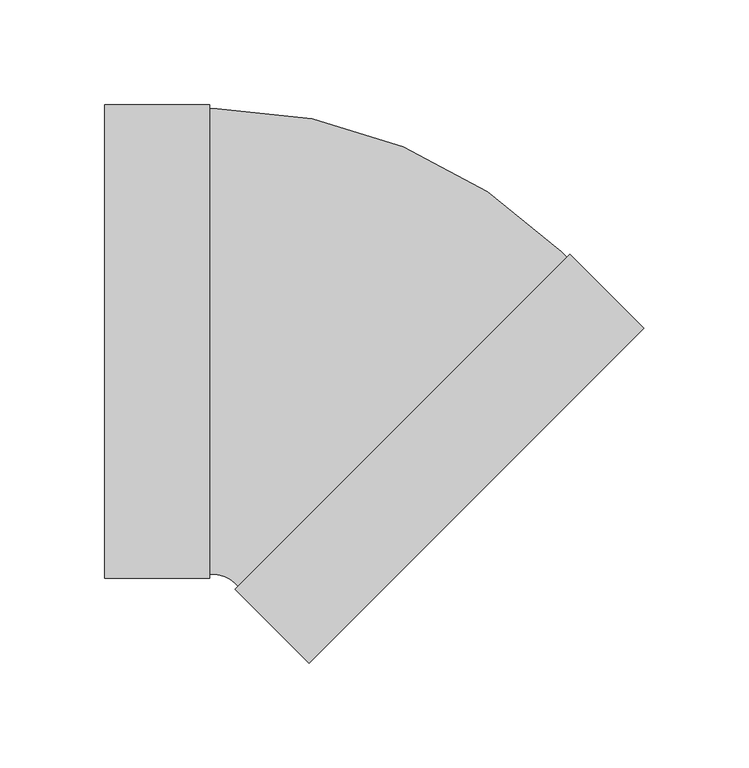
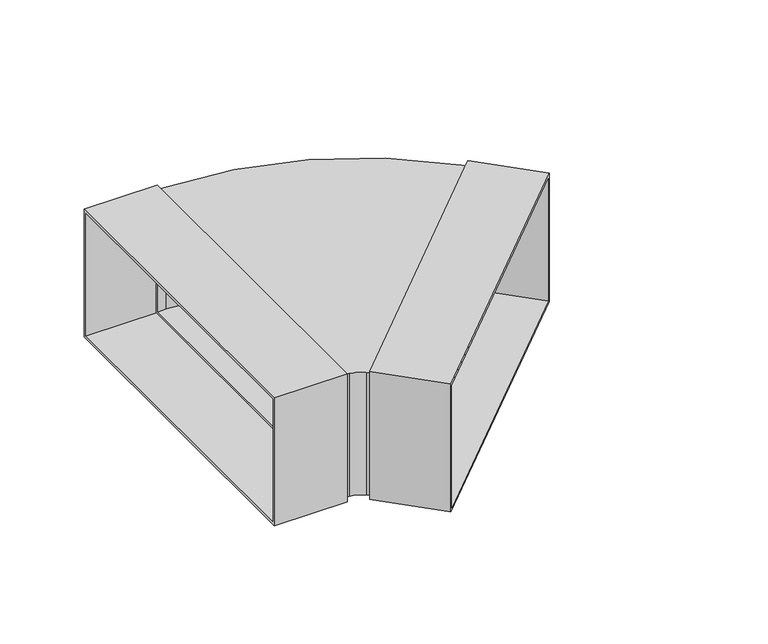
"""IFC4 building model written with IfcOpenShell, lengths in millimetres: proxy geometry, 10811450_D_DFK-BH45 : 28996394_D_10811450_DFK-BH45."""

from ifc_helpers import new_model, si_unit, frame, origin, place, context, project, spatial, polyline, circle_curve, outline, extrude, source, transform, mapped, element, save
from ifc_brep_helpers import plane_surface, cylinder_surface, revolved_surface, advanced_brep


def specialty_equipment_16a7d548(model_context):
    return source(origin(), model_context, "Body", "SolidModel", [
        extrude(outline(polyline([(-113.0, 46.5), (113.0, 46.5), (113.0, -46.5), (-113.0, -46.5), (-113.0, 46.5)]), holes=[polyline([(111.0, 44.5), (-111.0, 44.5), (-111.0, -44.5), (111.0, -44.5), (111.0, 44.5)])]), frame((0.0, 0.0, 0.0), z_axis=(1.0, 0.0, 0.0), x_axis=(0.0, 1.0, 0.0)), (0.0, 0.0, 1.0), 50.0),
        advanced_brep(
        [(53.7468245, 111.0, 44.5), (53.7468245, 111.0, -44.5), (48.0, 111.0, -44.5), (48.0, 111.0, 44.5), (52.4000282, -111.0, -44.5), (52.4000282, -111.0, 44.5), (48.0, -111.0, 44.5), (48.0, -111.0, -44.5), (52.4121735, -109.0, 42.5), (52.4121735, -109.0, -42.5), (48.0, -109.0, -42.5), (48.0, -109.0, 42.5), (53.7346921, 109.0, -42.5), (53.7346921, 109.0, 42.5), (48.0, 109.0, 42.5), (48.0, 109.0, -42.5), (218.0225394, 42.953817, 44.5), (61.9875977, -114.9857822, 44.5), (65.109127, -118.0868325, 44.5), (222.0868325, 38.890873, 44.5), (218.0225416, 42.9538149, -44.5), (222.0868325, 38.890873, -44.5), (65.109127, -118.0868325, -44.5), (61.9977751, -114.9754805, -44.5), (63.394708, -113.5614959, 42.5), (216.6169233, 41.5310431, 42.5), (220.6726189, 37.4766594, 42.5), (66.5233406, -116.6726189, 42.5), (63.3951069, -113.561857, -42.5), (66.5233406, -116.6726189, -42.5), (220.6726189, 37.4766594, -42.5), (216.6175753, 41.531703, -42.5)],
        [
            (0, 1),
            (1, 2),
            (2, 3),
            (3, 0),
            (4, 5),
            (5, 6),
            (6, 7),
            (7, 4),
            (8, 9),
            (9, 10),
            (10, 11),
            (11, 8),
            (12, 13),
            (13, 14),
            (14, 15),
            (15, 12),
            (16, 0, circle_curve(frame((51.5367366, -126.6575221, 44.5), z_axis=(0.0, 0.0, 1.0), x_axis=(0.012132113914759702, 0.999926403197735, 0.0)), 237.6668443)),
            (3, 6),
            (5, 17, circle_curve(frame((51.5367366, -126.6575221, 44.5), z_axis=(0.0, 0.0, -1.0), x_axis=(0.012132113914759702, 0.999926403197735, 0.0)), 15.6668443)),
            (17, 18),
            (18, 19),
            (19, 16),
            (16, 20),
            (20, 1, circle_curve(frame((51.5367366, -126.6575221, -44.5), z_axis=(0.0, 0.0, 1.0), x_axis=(0.012132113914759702, 0.999926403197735, 0.0)), 237.6668443)),
            (20, 21),
            (21, 22),
            (22, 23),
            (23, 4, circle_curve(frame((51.5367366, -126.6575221, -44.5), z_axis=(0.0, 0.0, 1.0), x_axis=(0.012132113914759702, 0.999926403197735, 0.0)), 15.6668443)),
            (7, 2),
            (23, 17),
            (24, 8, circle_curve(frame((51.5367366, -126.6575221, 42.5), z_axis=(0.0, 0.0, 1.0), x_axis=(0.012132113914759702, 0.999926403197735, 0.0)), 17.6668443)),
            (11, 14),
            (13, 25, circle_curve(frame((51.5367366, -126.6575221, 42.5), z_axis=(0.0, 0.0, -1.0), x_axis=(0.012132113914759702, 0.999926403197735, 0.0)), 235.6668443)),
            (25, 26),
            (26, 27),
            (27, 24),
            (24, 28),
            (28, 9, circle_curve(frame((51.5367366, -126.6575221, -42.5), z_axis=(0.0, 0.0, 1.0), x_axis=(0.012132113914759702, 0.999926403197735, 0.0)), 17.6668443)),
            (28, 29),
            (29, 30),
            (30, 31),
            (31, 12, circle_curve(frame((51.5367366, -126.6575221, -42.5), z_axis=(0.0, 0.0, 1.0), x_axis=(0.012132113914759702, 0.999926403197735, 0.0)), 235.6668443)),
            (15, 10),
            (31, 25),
            (19, 21),
            (22, 18),
            (27, 29),
            (30, 26),
        ],
        [
            plane_surface(frame((0.0, 111.0, 44.5), z_axis=(0.0, 1.0, 0.0), x_axis=(1.0, 0.0, 0.0))),
            plane_surface(frame((0.0, -111.0, -44.5), z_axis=(0.0, -1.0, 0.0), x_axis=(1.0, 0.0, 0.0))),
            plane_surface(frame((0.0, -109.0, 42.5), z_axis=(0.0, 1.0, 0.0), x_axis=(1.0, 0.0, 0.0))),
            plane_surface(frame((0.0, 109.0, -42.5), z_axis=(0.0, -1.0, 0.0), x_axis=(1.0, 0.0, 0.0))),
            plane_surface(frame((51.5367366, -126.6575221, 44.5), z_axis=(0.0, 0.0, 1.0), x_axis=(0.012132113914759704, 0.9999264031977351, 0.0))),
            cylinder_surface(frame((51.5367366, -126.6575221, 0.0), z_axis=(0.0, 0.0, -1.0), x_axis=(0.012132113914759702, 0.999926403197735, 0.0)), 237.6668443),
            plane_surface(frame((51.5367366, -126.6575221, -44.5), z_axis=(0.0, 0.0, -1.0), x_axis=(0.012132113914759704, 0.9999264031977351, 0.0))),
            revolved_surface(polyline([(51.7268085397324, -110.99183082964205, -44.5), (51.7268085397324, -110.99183082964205, 44.5)]), (51.5367366, -126.6575221, 0.0), (0.0, 0.0, -1.0)),
            plane_surface(frame((51.5367366, -126.6575221, 42.5), z_axis=(0.0, 0.0, -1.0), x_axis=(0.012132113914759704, 0.9999264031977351, 0.0))),
            cylinder_surface(frame((51.5367366, -126.6575221, 0.0), z_axis=(0.0, 0.0, -1.0), x_axis=(0.012132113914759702, 0.999926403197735, 0.0)), 17.6668443),
            plane_surface(frame((51.5367366, -126.6575221, -42.5), z_axis=(0.0, 0.0, 1.0), x_axis=(0.012132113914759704, 0.9999264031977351, 0.0))),
            revolved_surface(polyline([(54.395873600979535, 108.99197787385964, -42.5), (54.395873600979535, 108.99197787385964, 42.5)]), (51.5367366, -126.6575221, 0.0), (0.0, 0.0, -1.0)),
            plane_surface(frame((218.0232098, 42.9544956, 44.5), z_axis=(0.70710678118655, 0.7071067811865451, 0.0), x_axis=(0.7071067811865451, -0.70710678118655, 0.0))),
            plane_surface(frame((61.9977751, -114.9754805, -44.5), z_axis=(-0.7071067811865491, -0.7071067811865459, 0.0), x_axis=(0.7071067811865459, -0.7071067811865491, 0.0))),
            plane_surface(frame((63.4034097, -113.552688, 42.5), z_axis=(0.7071067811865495, 0.7071067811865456, 0.0), x_axis=(0.7071067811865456, -0.7071067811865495, 0.0))),
            plane_surface(frame((216.6175753, 41.531703, -42.5), z_axis=(-0.7071067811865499, -0.7071067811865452, 0.0), x_axis=(0.7071067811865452, -0.7071067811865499, 0.0))),
            plane_surface(frame((79.2512627, -103.9446968, 44.5), z_axis=(0.7071067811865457, -0.7071067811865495, 0.0), x_axis=(0.7071067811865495, 0.7071067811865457, 0.0))),
            plane_surface(frame((48.0, -91.0, 44.5), z_axis=(-1.0, 0.0, 0.0), x_axis=(0.0, -1.0, 0.0))),
        ],
        [
            (0, [[1, 2, 3, 4]]),
            (1, [[5, 6, 7, 8]]),
            (2, [[9, 10, 11, 12]]),
            (3, [[13, 14, 15, 16]]),
            (4, [[17, -4, 18, -6, 19, 20, 21, 22]]),
            (5, [[-1, -17, 23, 24]]),
            (6, [[-24, 25, 26, 27, 28, -8, 29, -2]]),
            (7, [[-5, -28, 30, -19]]),
            (8, [[31, -12, 32, -14, 33, 34, 35, 36]]),
            (9, [[-9, -31, 37, 38]]),
            (10, [[-38, 39, 40, 41, 42, -16, 43, -10]]),
            (11, [[-13, -42, 44, -33]]),
            (12, [[-23, -22, 45, -25]]),
            (13, [[-30, -27, 46, -20]]),
            (14, [[-37, -36, 47, -39]]),
            (15, [[-44, -41, 48, -34]]),
            (16, [[-21, -46, -26, -45], [-35, -48, -40, -47]]),
            (17, [[-3, -29, -7, -18], [-11, -43, -15, -32]]),
        ],
    ),
        extrude(outline(polyline([(21.5, 224.0), (21.5, -1.9999999), (-71.5, -1.9999999), (-71.5, 224.0), (21.5, 224.0)]), holes=[polyline([(-69.0, 0.0), (20.0, 0.0), (20.0, 222.0000001), (-69.0, 222.0000001), (-69.0, 0.0)])]), frame((256.027958, 4.9497475, -24.5), z_axis=(-0.7071067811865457, 0.7071067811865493, 0.0), x_axis=(0.0, 0.0, -1.0)), (0.0, 0.0, 1.0), 50.0),
    ])


if __name__ == "__main__":
    model = new_model("IFC4")
    model_context = context("Model", 3, world=origin())
    ifc_project = project(units=[si_unit("LENGTHUNIT", "METRE", prefix="MILLI")], contexts=[model_context])
    site = spatial("IfcSite", under=ifc_project)
    building = spatial("IfcBuilding", under=site)
    placement = place(None, origin())
    specialty_equipment_shape = specialty_equipment_16a7d548(model_context)
    element("IfcBuildingElementProxy", 1, Name="10811450_D_DFK-BH45 : 28996394_D_10811450_DFK-BH45", ObjectType="10811450_D_DFK-BH45 : 28996394_D_10811450_DFK-BH45", at=placement, inside=building, context=model_context, shape_type="MappedRepresentation", body=[
        mapped(specialty_equipment_shape, transform((0.0, 0.0, 0.0), x_axis=(1.0, 0.0, 0.0), y_axis=(0.0, 1.0, 0.0), z_axis=(0.0, 0.0, 1.0))),
    ])
    save(model, "model.ifc")
